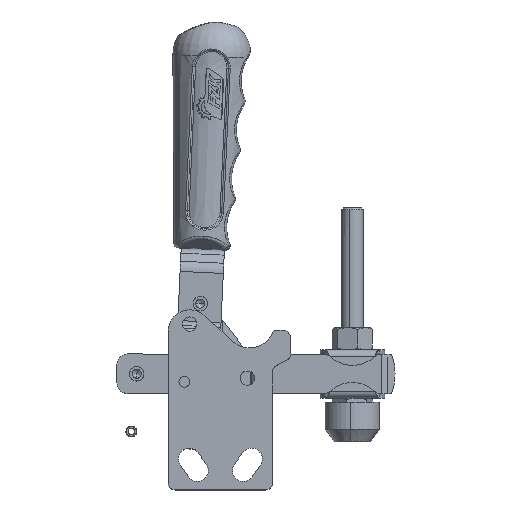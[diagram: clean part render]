
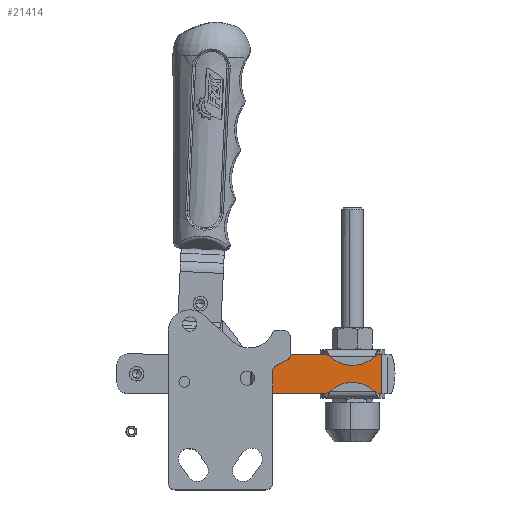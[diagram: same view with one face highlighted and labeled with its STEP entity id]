
A CAD part, top view. The second image highlights one B-rep face of the part: STEP entity #21414.
In plain terms, the highlighted planar face has unit normal (0, 0, 1).
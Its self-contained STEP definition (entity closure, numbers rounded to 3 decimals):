
#272 = FACE_OUTER_BOUND ( 'NONE', #29000, .T. ) ;
#1403 = DIRECTION ( 'NONE',  ( 1., 0., 0. ) ) ;
#1996 = VECTOR ( 'NONE', #8256, 1000. ) ;
#2283 = VECTOR ( 'NONE', #1403, 1000. ) ;
#2681 = VECTOR ( 'NONE', #22170, 1000. ) ;
#3796 = VERTEX_POINT ( 'NONE', #25454 ) ;
#3993 = EDGE_CURVE ( 'NONE', #15235, #24008, #14511, .T. ) ;
#4778 = AXIS2_PLACEMENT_3D ( 'NONE', #19673, #29191, #29032 ) ;
#4921 = VECTOR ( 'NONE', #24500, 1000. ) ;
#5546 = ORIENTED_EDGE ( 'NONE', *, *, #12984, .F. ) ;
#5949 = CARTESIAN_POINT ( 'NONE',  ( 41., 0., 5. ) ) ;
#7576 = CARTESIAN_POINT ( 'NONE',  ( 73.422, 11., 5. ) ) ;
#8099 = EDGE_CURVE ( 'NONE', #24008, #3796, #10654, .T. ) ;
#8256 = DIRECTION ( 'NONE',  ( 1., 0., 0. ) ) ;
#8586 = VERTEX_POINT ( 'NONE', #7576 ) ;
#8799 = CARTESIAN_POINT ( 'NONE',  ( 41.207, 11., 5. ) ) ;
#10654 = LINE ( 'NONE', #5949, #2283 ) ;
#12754 = ORIENTED_EDGE ( 'NONE', *, *, #24807, .F. ) ;
#12984 = EDGE_CURVE ( 'NONE', #8586, #3796, #17015, .T. ) ;
#14511 = LINE ( 'NONE', #24043, #4921 ) ;
#15235 = VERTEX_POINT ( 'NONE', #8799 ) ;
#17015 = LINE ( 'NONE', #21243, #2681 ) ;
#18096 = CARTESIAN_POINT ( 'NONE',  ( 41., 11., 5. ) ) ;
#18414 = CARTESIAN_POINT ( 'NONE',  ( 41.207, 0., 5. ) ) ;
#19673 = CARTESIAN_POINT ( 'NONE',  ( 41., 11., 5. ) ) ;
#21243 = CARTESIAN_POINT ( 'NONE',  ( 73.422, 11., 5. ) ) ;
#21387 = PLANE ( 'NONE',  #4778 ) ;
#21414 = ADVANCED_FACE ( 'NONE', ( #272 ), #21387, .F. ) ;
#22170 = DIRECTION ( 'NONE',  ( 0., -1., 0. ) ) ;
#22647 = LINE ( 'NONE', #18096, #1996 ) ;
#23489 = ORIENTED_EDGE ( 'NONE', *, *, #8099, .T. ) ;
#24008 = VERTEX_POINT ( 'NONE', #18414 ) ;
#24043 = CARTESIAN_POINT ( 'NONE',  ( 41.207, 11., 5. ) ) ;
#24500 = DIRECTION ( 'NONE',  ( 0., -1., 0. ) ) ;
#24807 = EDGE_CURVE ( 'NONE', #15235, #8586, #22647, .T. ) ;
#25454 = CARTESIAN_POINT ( 'NONE',  ( 73.422, 0., 5. ) ) ;
#27190 = ORIENTED_EDGE ( 'NONE', *, *, #3993, .T. ) ;
#29000 = EDGE_LOOP ( 'NONE', ( #23489, #5546, #12754, #27190 ) ) ;
#29032 = DIRECTION ( 'NONE',  ( 0., -1., 0. ) ) ;
#29191 = DIRECTION ( 'NONE',  ( 0., 0., -1. ) ) ;
